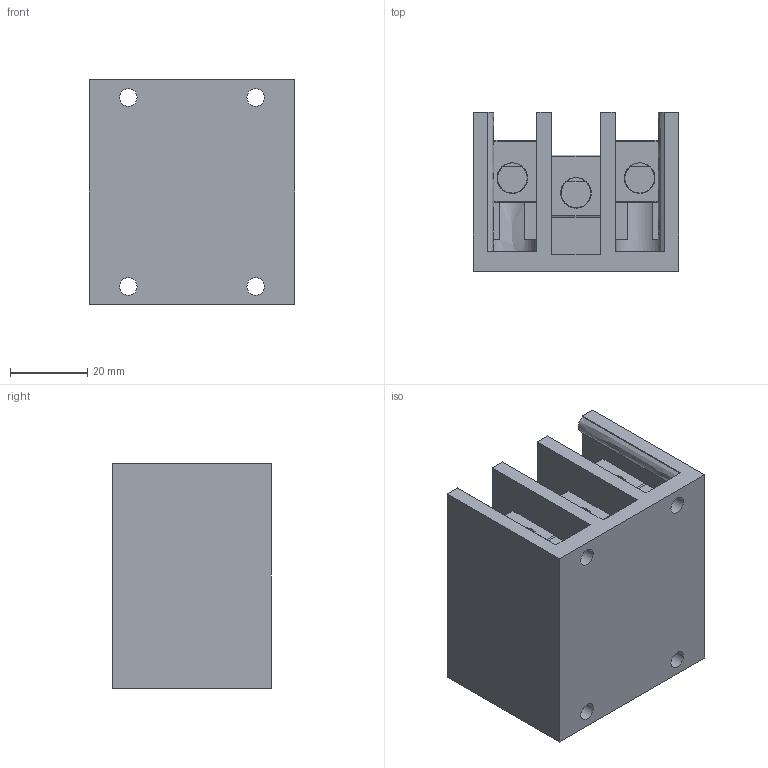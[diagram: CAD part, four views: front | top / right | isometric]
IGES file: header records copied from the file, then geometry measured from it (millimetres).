
Global section: file name: No Iges File Name specified; native system: AutoDesk Inventor R5.0; preprocessor: AutoDesk Inventor Iges Exporter R5.0; author: No Author specified; organization: No Organization specified; date: 20040209.214820; units: inch
Bounding box: 53.34 x 41.15 x 58.17 mm (x, y, z)
Surface area: 36179.7 mm2 (no closed solid volume)
Topology: 0 solids, 0 shells, 168 faces, 883 edges, 820 vertices
Faces by surface type: plane 69, bspline 54, revolution 45
